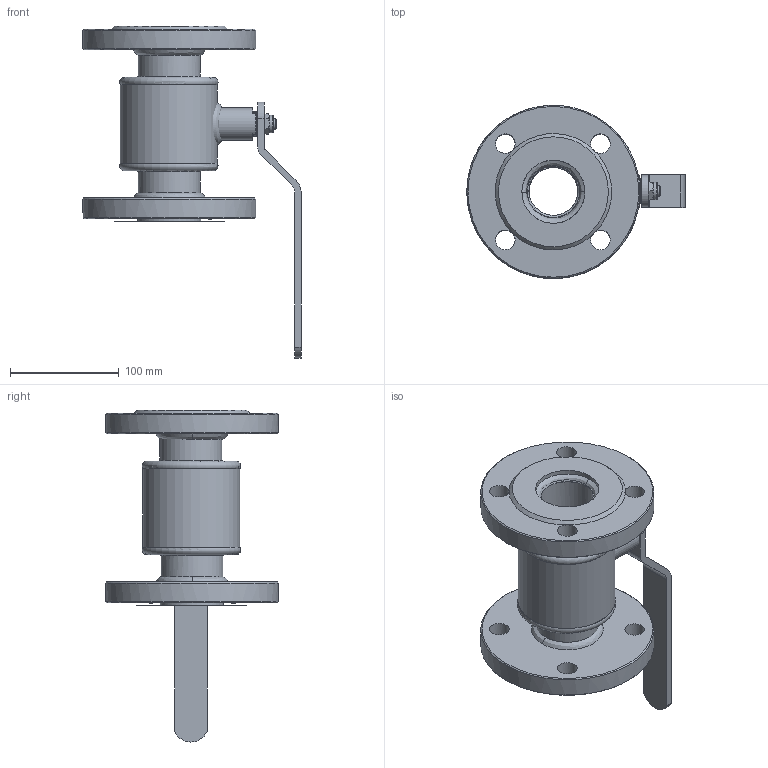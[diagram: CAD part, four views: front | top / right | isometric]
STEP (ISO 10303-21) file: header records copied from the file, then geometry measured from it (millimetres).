
FILE_DESCRIPTION(('STEP AP203'), '1');
FILE_NAME('羼-50_45 鐏鳧氀', '2016-01-14T10:54:41', (' '), (''), 'ASCON STEP Converter 1.3', 'ASCON Math Kernel', '');
FILE_SCHEMA(('CONFIG_CONTROL_DESIGN'));
Length unit declared in the file: millimetre
Products named in the file (1): 羼-50_45 鐏鳧氀
Bounding box: 200.5 x 158.95 x 304.99 mm (x, y, z)
Volume: 673278.4 mm3; surface area: 299699.5 mm2
Topology: 23 solids, 24 shells, 300 faces, 715 edges, 460 vertices
Faces by surface type: plane 117, cylinder 95, cone 33, bspline 30, torus 19, sphere 4, revolution 2
Full cylindrical faces by diameter (mm): 1.7 x2, 8 x1, 8.376 x1, 10 x1, 10.8 x1, 12.5 x2, 12.575 x2, 16 x6, 18 x8, 20 x1, 20.2 x2, 30 x2, 45 x4, 48 x4, 49 x2, 57 x2, 58.009 x4, 62.6 x2, 65 x2, 65.6 x2, 66.4 x4, 72 x2, 82 x1, 89 x1, 159.003 x2
Entity records: 17709 total; most frequent: CARTESIAN_POINT 8739, DIRECTION 1236, ORIENTED_EDGE 1190, EDGE_CURVE 595, AXIS2_PLACEMENT_3D 541, EDGE_LOOP 472, VERTEX_POINT 449, FACE_BOUND 329
